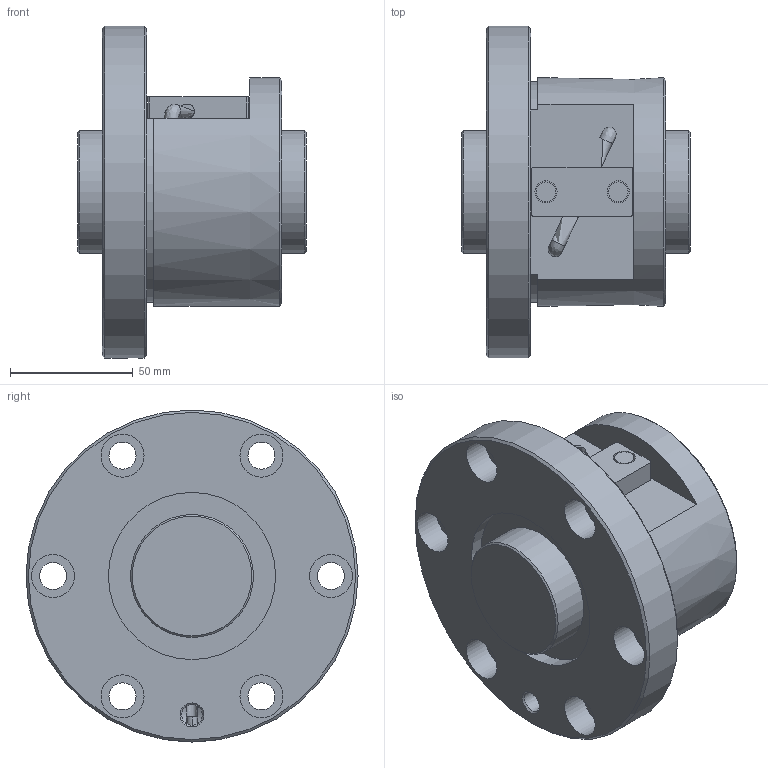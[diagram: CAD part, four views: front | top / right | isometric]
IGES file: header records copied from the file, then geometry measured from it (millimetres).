
Start section: Data from Parasolid IGES Translator 26.0.171, Copyright(c) 2006 Siemens PLM Software. All Rights Reserved.
Global section: file name: BNF5010V-2.5RRG1+93LC0_000_rev.igs; native system: By Siemens PLM Incorporated; preprocessor: XPlus GENERIC/IGES 26.0.171; author: Noname; organization: Noname; date: 20240806.090449; units: millimetre
Bounding box: 93 x 135 x 135 mm (x, y, z)
Surface area: 86744.8 mm2 (no closed solid volume)
Topology: 0 solids, 0 shells, 72 faces, 316 edges, 268 vertices
Faces by surface type: revolution 45, extrusion 27
